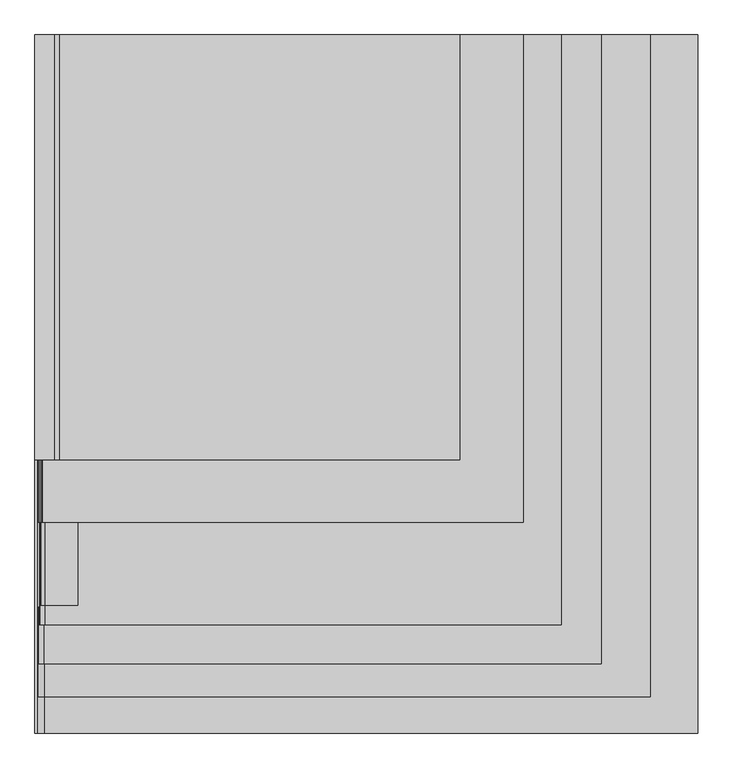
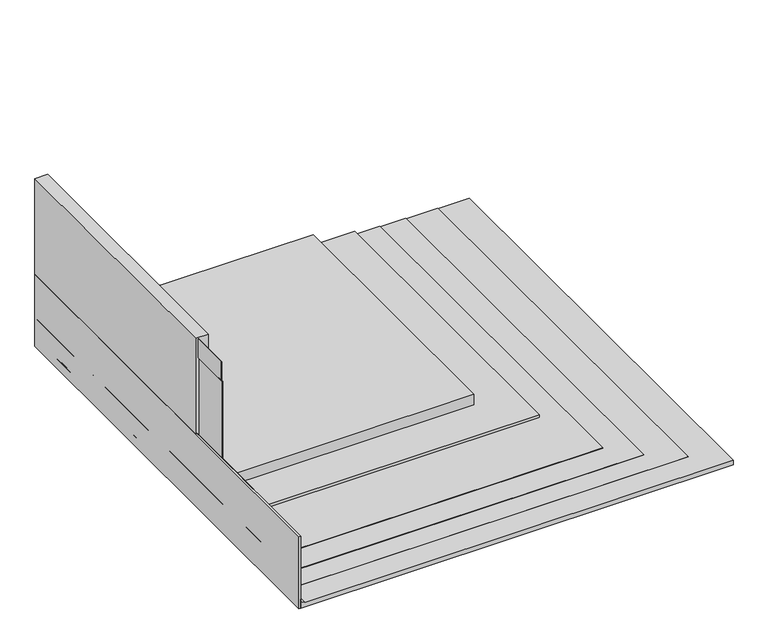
"""IFC4 building model written with IfcOpenShell, lengths in millimetres: proxy geometry, IMPER:IMPER:433934 : IMPER:IMPER:433934."""

import ifcopenshell
import ifcopenshell.guid

model = None  # the IFC model being written
_history = None  # IfcOwnerHistory: only IFC2X3 demands one
_inside = {}  # id of a spatial element -> (the spatial element, [elements in it])
_under = {}  # id of a project, library or spatial element -> (it, [spatial elements below it])
_declared = {}  # id of a project -> (the project, [libraries it declares])
_typed = {}  # id of a type object -> (the type object, [elements of that type])
_made_of = {}  # id of a material, layer set ... -> (it, [elements and type objects made of it])


def new_model(schema):
    """Start an empty IFC model of exactly this schema.

    Asked for "IFC4X3", IfcOpenShell would pick the latest addendum, in which some entities
    have other attributes; the version numbers below select the first issue.
    IFC2X3 requires an IfcOwnerHistory on every rooted entity: one is made here for all.
    """
    global model, _history
    if schema == "IFC4X3":
        model = ifcopenshell.file(schema_version=(4, 3, 0, 0))
    else:
        model = ifcopenshell.file(schema=schema)
    _inside.clear()
    _under.clear()
    _declared.clear()
    _typed.clear()
    _made_of.clear()
    _history = None
    if model.schema == "IFC2X3":
        org = make("IfcOrganization", Name="unknown")
        user = make(
            "IfcPersonAndOrganization",
            ThePerson=make("IfcPerson", FamilyName="unknown"),
            TheOrganization=org,
        )
        app = make(
            "IfcApplication",
            ApplicationDeveloper=org,
            Version="unknown",
            ApplicationFullName="unknown",
            ApplicationIdentifier="unknown",
        )
        _history = make(
            "IfcOwnerHistory",
            OwningUser=user,
            OwningApplication=app,
            ChangeAction="ADDED",
            CreationDate=0,
        )
    return model


def make(cls, **values):
    """One entity of the class cls with the attributes given. An attribute that is None is left unset."""
    return model.create_entity(
        cls, **{name: value for name, value in values.items() if value is not None}
    )


def rooted(cls, **values):
    """An entity with a GlobalId (a new one), such as an element, a storey or a relation."""
    return make(cls, GlobalId=ifcopenshell.guid.new(), OwnerHistory=_history, **values)


def si_unit(unit_type, name, prefix=None):
    """IfcSIUnit, for example si_unit("LENGTHUNIT", "METRE", prefix="MILLI")."""
    return make("IfcSIUnit", UnitType=unit_type, Prefix=prefix, Name=name)


def assignment(units):
    """IfcUnitAssignment: the units of a project."""
    return None if units is None else make("IfcUnitAssignment", Units=units)


def point(xyz):
    """IfcCartesianPoint."""
    return None if xyz is None else make("IfcCartesianPoint", Coordinates=xyz)


def direction(xyz):
    """IfcDirection."""
    return None if xyz is None else make("IfcDirection", DirectionRatios=xyz)


def frame(location, z_axis=None, x_axis=None):
    """IfcAxis2Placement3D, a coordinate frame: its origin and axes. An axis left out is left unset."""
    return make(
        "IfcAxis2Placement3D",
        Location=point(location),
        Axis=direction(z_axis),
        RefDirection=direction(x_axis),
    )


def frame_2d(location, x_axis=None):
    """IfcAxis2Placement2D, a coordinate frame in the plane: its origin and x axis."""
    return make(
        "IfcAxis2Placement2D", Location=point(location), RefDirection=direction(x_axis)
    )


def origin():
    """The frame at (0, 0, 0) with its axes left unset."""
    return frame((0.0, 0.0, 0.0))


def place(relative_to, where):
    """IfcLocalPlacement: puts the frame where relative to a parent placement (None: the world)."""
    return make(
        "IfcLocalPlacement", PlacementRelTo=relative_to, RelativePlacement=where
    )


def context(
    kind, dimensions, precision=None, world=None, true_north=None, identifier=None
):
    """IfcGeometricRepresentationContext, for example the 3D "Model" context."""
    return make(
        "IfcGeometricRepresentationContext",
        ContextIdentifier=identifier,
        ContextType=kind,
        CoordinateSpaceDimension=dimensions,
        Precision=precision,
        WorldCoordinateSystem=world,
        TrueNorth=true_north,
    )


def project(units=None, contexts=None):
    """IfcProject with its units and contexts."""
    return rooted(
        "IfcProject",
        Name="project",
        RepresentationContexts=contexts,
        UnitsInContext=assignment(units),
    )


def spatial(cls, under=None, at=None, **own):
    """A site, building, storey or space (cls), placed at a placement, below another one or the project."""
    s = rooted(cls, ObjectPlacement=at, **own)
    if under is not None:
        _under.setdefault(under.id(), (under, []))[1].append(s)
    return s


def polyline(points):
    """IfcPolyline through the points."""
    return make("IfcPolyline", Points=[point(p) for p in points])


def circle_curve(where, radius):
    """IfcCircle in the frame where."""
    return make("IfcCircle", Position=where, Radius=radius)


def trimmed(basis, trim1, trim2, sense, master):
    """IfcTrimmedCurve: the piece of a basis curve between two trims."""
    return make(
        "IfcTrimmedCurve",
        BasisCurve=basis,
        Trim1=trim1,
        Trim2=trim2,
        SenseAgreement=sense,
        MasterRepresentation=master,
    )


def segment(curve, same_sense, transition):
    """IfcCompositeCurveSegment."""
    return make(
        "IfcCompositeCurveSegment",
        Transition=transition,
        SameSense=same_sense,
        ParentCurve=curve,
    )


def composite_curve(segments, self_intersect=None):
    """IfcCompositeCurve: segments joined end to end."""
    return make("IfcCompositeCurve", Segments=segments, SelfIntersect=self_intersect)


def outline(outer, holes=None, kind="AREA"):
    """IfcArbitraryClosedProfileDef: a profile drawn as a closed curve; with holes, ...WithVoids."""
    if holes is None:
        return make("IfcArbitraryClosedProfileDef", ProfileType=kind, OuterCurve=outer)
    return make(
        "IfcArbitraryProfileDefWithVoids",
        ProfileType=kind,
        OuterCurve=outer,
        InnerCurves=holes,
    )


def extrude(swept, where, along, depth):
    """IfcExtrudedAreaSolid: the profile swept, set in the frame where, extruded along a direction by depth."""
    return make(
        "IfcExtrudedAreaSolid",
        SweptArea=swept,
        Position=where,
        ExtrudedDirection=direction(along),
        Depth=depth,
    )


def shape(context_of_items, identifier, shape_type, items):
    """IfcShapeRepresentation: the items that make up one representation, for example the "Body"."""
    return make(
        "IfcShapeRepresentation",
        ContextOfItems=context_of_items,
        RepresentationIdentifier=identifier,
        RepresentationType=shape_type,
        Items=items,
    )


def source(mapping_origin, context_of_items, identifier, shape_type, items):
    """IfcRepresentationMap: a shape defined once, which mapped items show again and again."""
    return make(
        "IfcRepresentationMap",
        MappingOrigin=mapping_origin,
        MappedRepresentation=shape(context_of_items, identifier, shape_type, items),
    )


def transform(
    local_origin,
    x_axis=None,
    y_axis=None,
    z_axis=None,
    scale=None,
    scale2=None,
    scale3=None,
    uniform=True,
):
    """IfcCartesianTransformationOperator3D, or its non-uniform kind. x_axis, y_axis, z_axis: its Axis1, 2, 3."""
    if uniform:
        return make(
            "IfcCartesianTransformationOperator3D",
            Axis1=direction(x_axis),
            Axis2=direction(y_axis),
            LocalOrigin=point(local_origin),
            Scale=scale,
            Axis3=direction(z_axis),
        )
    return make(
        "IfcCartesianTransformationOperator3DnonUniform",
        Axis1=direction(x_axis),
        Axis2=direction(y_axis),
        LocalOrigin=point(local_origin),
        Scale=scale,
        Axis3=direction(z_axis),
        Scale2=scale2,
        Scale3=scale3,
    )


def mapped(mapping_source, mapping_target):
    """IfcMappedItem: shows the shape of a source again, moved by a transform."""
    return make(
        "IfcMappedItem", MappingSource=mapping_source, MappingTarget=mapping_target
    )


def made_of(thing, what):
    """Note that an element or type object is made of a material, layer set ...; save() writes the relation."""
    if what is not None:
        _made_of.setdefault(what.id(), (what, []))[1].append(thing)
    return thing


def element(
    cls,
    number,
    at=None,
    inside=None,
    cuts=None,
    type_object=None,
    material=None,
    context=None,
    identifier="Body",
    shape_type=None,
    held_by="IfcProductDefinitionShape",
    body=None,
    shapes=None,
    **own,
):
    """One element of the class cls, such as IfcWall. Its Tag is "e" and its number.

    at: its placement. inside: the storey or other place that contains it. cuts: it is an
    opening in that element (IfcRelVoidsElement). A single representation is given by context,
    identifier, shape_type and body (its items); several are given by shapes. held_by: the class
    of the entity that holds the representations. save() writes the other relations.
    """
    e = rooted(cls, Tag="e%d" % number, ObjectPlacement=at, **own)
    if body is not None:
        shapes = [shape(context, identifier, shape_type, body)]
    if shapes is not None:
        e.Representation = make(held_by, Representations=shapes)
    if inside is not None:
        _inside.setdefault(inside.id(), (inside, []))[1].append(e)
    if cuts is not None:
        rooted(
            "IfcRelVoidsElement", RelatingBuildingElement=cuts, RelatedOpeningElement=e
        )
    if type_object is not None:
        _typed.setdefault(type_object.id(), (type_object, []))[1].append(e)
    return made_of(e, material)


def aggregate(whole, parts):
    """IfcRelAggregates: a whole, such as a stair, and the parts it consists of."""
    return rooted("IfcRelAggregates", RelatingObject=whole, RelatedObjects=parts)


def save(model, path):
    """Write the relations noted so far, then the file.

    IfcRelAggregates (storeys below a building ...), IfcRelContainedInSpatialStructure (elements
    in a storey), IfcRelDefinesByType, IfcRelAssociatesMaterial and IfcRelDeclares: one each for
    every whole, place, type object, material and project.
    """
    for whole, parts in _under.values():
        aggregate(whole, parts)
    for where, things in _inside.values():
        rooted(
            "IfcRelContainedInSpatialStructure",
            RelatedElements=things,
            RelatingStructure=where,
        )
    for kind, things in _typed.values():
        rooted("IfcRelDefinesByType", RelatedObjects=things, RelatingType=kind)
    for what, things in _made_of.values():
        rooted("IfcRelAssociatesMaterial", RelatedObjects=things, RelatingMaterial=what)
    for by, libraries in _declared.values():
        rooted("IfcRelDeclares", RelatingContext=by, RelatedDefinitions=libraries)
    model.write(path)


def generic_models_9ae79c3e(model_context):
    return source(origin(), model_context, "Body", "SweptSolid", [
        extrude(outline(polyline([(-351.9704105, 145.8700195), (-341.9704105, 145.8700195), (-341.9704105, -2708.2416892), (-351.9704105, -2708.2416892), (-351.9704105, 145.8700195)])), frame((0.0, 0.0, -2.523798), z_axis=(0.0, 0.0, 1.0), x_axis=(1.0, 0.0, 0.0)), (0.0, 0.0, 1.0), 475.2746515),
        extrude(outline(polyline([(-271.9704105, 145.8700195), (-251.9704105, 145.8700195), (-251.9704105, -1591.3980536), (-271.9704105, -1591.3980536), (-271.9704105, 145.8700195)])), frame((0.0, 0.0, 107.3018705), z_axis=(0.0, 0.0, 1.0), x_axis=(1.0, 0.0, 0.0)), (0.0, 0.0, 1.0), 20.0),
        extrude(outline(composite_curve([segment(polyline([(127.3018705, 1383.8408996), (127.3018705, -251.9704105), (107.3018705, -251.9704105), (107.3018705, -271.9704105), (127.3018705, -271.9704105), (1104.1279924, -271.9704105), (1104.1279924, -351.9704105), (472.7508535, -351.9704105), (472.7508535, -341.9704105), (464.711346, -333.930903), (455.5276938, -333.930903), (455.5276938, -336.9591004), (305.8779147, -336.9591004)]), True, "CONTINUOUS"), segment(trimmed(circle_curve(frame_2d((297.476202, -341.9120978)), 9.7529974), [point((305.8779147, -336.9591004))], [point((297.476202, -332.1591004))], True, "CARTESIAN"), True, "CONTINUOUS"), segment(polyline([(297.476202, -332.1591004), (170.751438, -332.1591004)]), True, "CONTINUOUS"), segment(trimmed(circle_curve(frame_2d((162.3497254, -337.1120978)), 9.7529974), [point((170.751438, -332.1591004))], [point((162.3497254, -327.3591004))], True, "CARTESIAN"), True, "CONTINUOUS"), segment(polyline([(162.3497254, -327.3591004), (57.3018705, -327.3591004), (57.3018705, 1383.8408996), (127.3018705, 1383.8408996)]), True, "CONTINUOUS")], self_intersect=False)), frame((0.0, -1591.3980536, 0.0), z_axis=(0.0, 1.0, 0.0), x_axis=(0.0, 0.0, 1.0)), (0.0, 0.0, 1.0), 1737.2680731),
        extrude(outline(composite_curve([segment(polyline([(57.3018705, 1643.8408996), (57.3018705, -327.3694237)]), True, "CONTINUOUS"), segment(trimmed(circle_curve(frame_2d((57.476202, -311.9704105)), 15.4), [point((57.3018705, -327.3694237))], [point((42.1018705, -311.0816306))], False, "CARTESIAN"), True, "CONTINUOUS"), segment(polyline([(42.1018705, -311.0816306), (42.1018705, -175.9704105), (37.3018705, -175.9704105), (37.3018705, 1643.8408996), (57.3018705, 1643.8408996)]), True, "CONTINUOUS")], self_intersect=False)), frame((0.0, -1847.0207684, 0.0), z_axis=(0.0, 1.0, 0.0), x_axis=(0.0, 0.0, 1.0)), (0.0, 0.0, 1.0), 1992.8907879),
        extrude(outline(polyline([(462.5018705, -336.9591004), (455.5276938, -336.9591004), (455.5276938, -333.930903), (464.711346, -333.930903), (472.7508535, -341.9704105), (467.5131806, -341.9704105), (462.5018705, -336.9591004)])), frame((0.0, -2191.1266924, 0.0), z_axis=(0.0, 1.0, 0.0), x_axis=(0.0, 0.0, 1.0)), (0.0, 0.0, 1.0), 2336.9967119),
        extrude(outline(composite_curve([segment(polyline([(162.3497254, -322.3591004), (56.8860974, -322.3591004), (56.8860974, -321.5591004), (162.3497254, -321.5591004)]), True, "CONTINUOUS"), segment(trimmed(circle_curve(frame_2d((162.3497254, -337.1120978)), 15.5529974), [point((162.3497254, -321.5591004))], [point((173.5866634, -326.3591004))], False, "CARTESIAN"), True, "CONTINUOUS"), segment(polyline([(173.5866634, -326.3591004), (297.476202, -326.3591004)]), True, "CONTINUOUS"), segment(trimmed(circle_curve(frame_2d((297.476202, -341.9120978)), 15.5529974), [point((297.476202, -326.3591004))], [point((308.71314, -331.1591004))], False, "CARTESIAN"), True, "CONTINUOUS"), segment(polyline([(308.71314, -331.1591004), (968.71314, -331.1591004)]), True, "CONTINUOUS"), segment(trimmed(circle_curve(frame_2d((957.8319889, -349.0899304)), 20.9741296), [point((968.71314, -331.1591004))], [point((975.4017315, -337.6348766))], False, "CARTESIAN"), True, "CONTINUOUS"), segment(polyline([(975.4017315, -337.6348766), (1098.9341396, -337.6348766), (1098.9341396, -338.4348766), (974.9628188, -338.4348766)]), True, "CONTINUOUS"), segment(trimmed(circle_curve(frame_2d((957.8319889, -349.0899304)), 20.1741296), [point((974.9628188, -338.4348766))], [point((968.4870426, -331.9591004))], True, "CARTESIAN"), True, "CONTINUOUS"), segment(polyline([(968.4870426, -331.9591004), (308.3660494, -331.9591004)]), True, "CONTINUOUS"), segment(trimmed(circle_curve(frame_2d((297.476202, -341.9120978)), 14.7529974), [point((308.3660494, -331.9591004))], [point((297.476202, -327.1591004))], True, "CARTESIAN"), True, "CONTINUOUS"), segment(polyline([(297.476202, -327.1591004), (173.2395727, -327.1591004)]), True, "CONTINUOUS"), segment(trimmed(circle_curve(frame_2d((162.3497254, -337.1120978)), 14.7529974), [point((173.2395727, -327.1591004))], [point((162.3497254, -322.3591004))], True, "CARTESIAN"), True, "CONTINUOUS")], self_intersect=False)), frame((0.0, -1847.0207684, 0.0), z_axis=(0.0, 1.0, 0.0), x_axis=(0.0, 0.0, 1.0)), (0.0, 0.0, 1.0), 1992.8907879),
        extrude(outline(composite_curve([segment(polyline([(38.1018705, -310.9727746), (38.1018705, -175.9704105), (42.1018705, -175.9704105), (42.1018705, -311.0816306)]), True, "CONTINUOUS"), segment(trimmed(circle_curve(frame_2d((57.476202, -311.9704105)), 15.4), [point((42.1018705, -311.0816306))], [point((56.8860974, -327.3591004))], True, "CARTESIAN"), True, "CONTINUOUS"), segment(polyline([(56.8860974, -327.3591004), (162.3497254, -327.3591004)]), True, "CONTINUOUS"), segment(trimmed(circle_curve(frame_2d((162.3497254, -337.1120978)), 9.7529974), [point((162.3497254, -327.3591004))], [point((170.751438, -332.1591004))], False, "CARTESIAN"), True, "CONTINUOUS"), segment(polyline([(170.751438, -332.1591004), (297.476202, -332.1591004)]), True, "CONTINUOUS"), segment(trimmed(circle_curve(frame_2d((297.476202, -341.9120978)), 9.7529974), [point((297.476202, -332.1591004))], [point((305.8779147, -336.9591004))], False, "CARTESIAN"), True, "CONTINUOUS"), segment(polyline([(305.8779147, -336.9591004), (462.5018705, -336.9591004), (466.5018705, -340.9591004), (305.9344646, -340.9591004)]), True, "CONTINUOUS"), segment(trimmed(circle_curve(frame_2d((305.9344646, -336.7879323)), 4.1711681), [point((305.9344646, -340.9591004))], [point((302.1717762, -338.5881601))], False, "CARTESIAN"), True, "CONTINUOUS"), segment(trimmed(circle_curve(frame_2d((297.476202, -341.9120978)), 5.7529974), [point((302.1717762, -338.5881601))], [point((297.476202, -336.1591004))], True, "CARTESIAN"), True, "CONTINUOUS"), segment(polyline([(297.476202, -336.1591004), (170.8079879, -336.1591004)]), True, "CONTINUOUS"), segment(trimmed(circle_curve(frame_2d((170.8079879, -331.9879323)), 4.1711681), [point((170.8079879, -336.1591004))], [point((167.0452996, -333.7881601))], False, "CARTESIAN"), True, "CONTINUOUS"), segment(trimmed(circle_curve(frame_2d((162.3497254, -337.1120978)), 5.7529974), [point((167.0452996, -333.7881601))], [point((162.3497254, -331.3591004))], True, "CARTESIAN"), True, "CONTINUOUS"), segment(polyline([(162.3497254, -331.3591004), (56.8138545, -331.3591004)]), True, "CONTINUOUS"), segment(trimmed(circle_curve(frame_2d((57.476202, -311.9704105)), 19.4), [point((56.8138545, -331.3591004))], [point((38.1018705, -310.9727746))], False, "CARTESIAN"), True, "CONTINUOUS")], self_intersect=False)), frame((0.0, -2184.7269109, 0.0), z_axis=(0.0, 1.0, 0.0), x_axis=(0.0, 0.0, 1.0)), (0.0, 0.0, 1.0), 2330.5969304),
        extrude(outline(composite_curve([segment(polyline([(-311.9704105, 27.476202), (2358.0295895, 27.476202), (2358.0295895, -2.523798), (-341.9704105, -2.523798), (-341.9704105, 57.476202)]), True, "CONTINUOUS"), segment(trimmed(circle_curve(frame_2d((-311.9704105, 57.476202)), 30.0), [point((-341.9704105, 57.476202))], [point((-311.9704105, 27.476202))], True, "CARTESIAN"), True, "CONTINUOUS")], self_intersect=False)), frame((0.0, 145.8700195, 0.0), z_axis=(0.0, -1.0, 0.0), x_axis=(1.0, 0.0, 0.0)), (0.0, 0.0, 1.0), 2854.1117086),
        extrude(outline(composite_curve([segment(polyline([(56.6663512, -340.9591004), (466.5054998, -340.9591004), (466.5054998, -341.9704105), (57.476202, -341.9704105)]), True, "CONTINUOUS"), segment(trimmed(circle_curve(frame_2d((57.476202, -311.9704105)), 30.0), [point((57.476202, -341.9704105))], [point((27.476202, -311.9704105))], False, "CARTESIAN"), True, "CONTINUOUS"), segment(polyline([(27.476202, -311.9704105), (27.476202, 2163.8408996), (28.5018705, 2163.8408996), (28.5018705, -313.1902924)]), True, "CONTINUOUS"), segment(trimmed(circle_curve(frame_2d((57.476202, -311.9704105)), 29.0), [point((28.5018705, -313.1902924))], [point((56.6663512, -340.9591004))], True, "CARTESIAN"), True, "CONTINUOUS")], self_intersect=False)), frame((0.0, -2558.7854434, 0.0), z_axis=(0.0, 1.0, 0.0), x_axis=(0.0, 0.0, 1.0)), (0.0, 0.0, 1.0), 2704.6554629),
        extrude(outline(composite_curve([segment(polyline([(170.8079879, -336.9591004), (297.476202, -336.9591004), (301.476202, -340.9591004), (170.8079879, -340.9591004)]), True, "CONTINUOUS"), segment(trimmed(circle_curve(frame_2d((170.8079879, -331.9879323)), 8.9711681), [point((170.8079879, -340.9591004))], [point((163.2638031, -336.8425314))], False, "CARTESIAN"), True, "CONTINUOUS"), segment(trimmed(circle_curve(frame_2d((162.3497254, -337.1120978)), 0.9529974), [point((163.2638031, -336.8425314))], [point((162.3497254, -336.1591004))], True, "CARTESIAN"), True, "CONTINUOUS"), segment(polyline([(162.3497254, -336.1591004), (56.7364174, -336.1591004)]), True, "CONTINUOUS"), segment(trimmed(circle_curve(frame_2d((57.476202, -311.9704105)), 24.2), [point((56.7364174, -336.1591004))], [point((33.3018705, -313.084724))], False, "CARTESIAN"), True, "CONTINUOUS"), segment(polyline([(33.3018705, -313.084724), (33.3018705, 1799.0014313), (37.3018705, 1799.0014313), (37.3018705, -310.9523993)]), True, "CONTINUOUS"), segment(trimmed(circle_curve(frame_2d((57.476202, -311.9704105)), 20.2), [point((37.3018705, -310.9523993))], [point((56.8003319, -332.1591004))], True, "CARTESIAN"), True, "CONTINUOUS"), segment(polyline([(56.8003319, -332.1591004), (162.3497254, -332.1591004)]), True, "CONTINUOUS"), segment(trimmed(circle_curve(frame_2d((162.3497254, -337.1120978)), 4.9529974), [point((162.3497254, -332.1591004))], [point((166.355889, -334.1995668))], False, "CARTESIAN"), True, "CONTINUOUS"), segment(trimmed(circle_curve(frame_2d((170.8079879, -331.9879323)), 4.9711681), [point((166.355889, -334.1995668))], [point((170.8079879, -336.9591004))], True, "CARTESIAN"), True, "CONTINUOUS")], self_intersect=False)), frame((0.0, -2265.2015055, 0.0), z_axis=(0.0, 1.0, 0.0), x_axis=(0.0, 0.0, 1.0)), (0.0, 0.0, 1.0), 2411.071525),
        extrude(outline(composite_curve([segment(polyline([(56.7093919, -337.9591004), (163.5018705, -337.9591004), (166.5018705, -340.9591004), (56.6663512, -340.9591004)]), True, "CONTINUOUS"), segment(trimmed(circle_curve(frame_2d((57.476202, -311.9704105)), 29.0), [point((56.6663512, -340.9591004))], [point((28.5018705, -313.1902924))], False, "CARTESIAN"), True, "CONTINUOUS"), segment(polyline([(28.5018705, -313.1902924), (28.5018705, 1963.8408996), (31.5018705, 1963.8408996), (31.5018705, -313.1254434)]), True, "CONTINUOUS"), segment(trimmed(circle_curve(frame_2d((57.476202, -311.9704105)), 26.0), [point((31.5018705, -313.1254434))], [point((56.7093919, -337.9591004))], True, "CARTESIAN"), True, "CONTINUOUS")], self_intersect=False)), frame((0.0, -2425.100387, 0.0), z_axis=(0.0, 1.0, 0.0), x_axis=(0.0, 0.0, 1.0)), (0.0, 0.0, 1.0), 2570.9704065),
    ])


if __name__ == "__main__":
    model = new_model("IFC4")
    model_context = context("Model", 3, world=origin())
    ifc_project = project(units=[si_unit("LENGTHUNIT", "METRE", prefix="MILLI")], contexts=[model_context])
    site = spatial("IfcSite", under=ifc_project)
    building = spatial("IfcBuilding", under=site)
    placement = place(None, origin())
    generic_models_shape = generic_models_9ae79c3e(model_context)
    element("IfcBuildingElementProxy", 1, Name="IMPER:IMPER:433934 : IMPER:IMPER:433934", ObjectType="IMPER:IMPER:433934 : IMPER:IMPER:433934", at=placement, inside=building, context=model_context, shape_type="MappedRepresentation", body=[
        mapped(generic_models_shape, transform((0.0, 0.0, 0.0), x_axis=(1.0, 0.0, 0.0), y_axis=(0.0, 1.0, 0.0), z_axis=(0.0, 0.0, 1.0))),
    ])
    save(model, "model.ifc")
